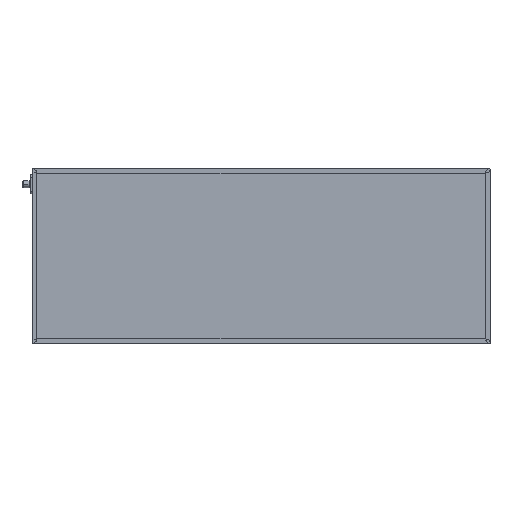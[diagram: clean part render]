
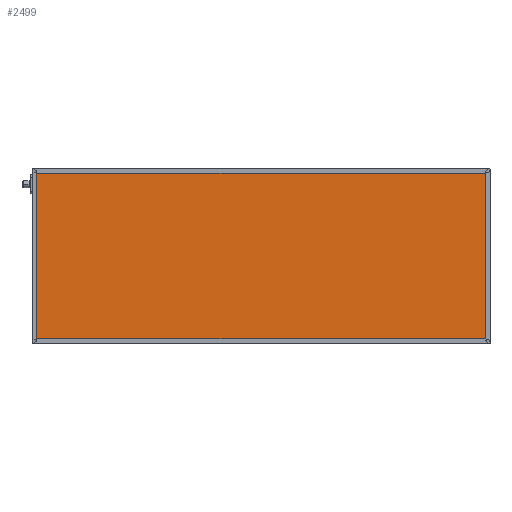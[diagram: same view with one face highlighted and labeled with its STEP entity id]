
A CAD part, top view. The second image highlights one B-rep face of the part: STEP entity #2499.
In plain terms, the highlighted planar face has unit normal (0, 0, 1).
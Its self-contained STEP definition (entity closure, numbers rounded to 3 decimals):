
#205 = EDGE_CURVE ( 'NONE', #12950, #5112, #7397, .T. ) ;
#1191 = VECTOR ( 'NONE', #16463, 1000. ) ;
#1362 = VERTEX_POINT ( 'NONE', #11998 ) ;
#1639 = LINE ( 'NONE', #16273, #14936 ) ;
#1656 = EDGE_CURVE ( 'NONE', #15715, #12950, #8681, .T. ) ;
#1838 = DIRECTION ( 'NONE',  ( -1., 0., 0. ) ) ;
#2499 = ADVANCED_FACE ( 'NONE', ( #10789 ), #13493, .F. ) ;
#3297 = DIRECTION ( 'NONE',  ( 0., -1., 0. ) ) ;
#3400 = EDGE_LOOP ( 'NONE', ( #7429, #8547, #9199, #16414 ) ) ;
#3859 = CARTESIAN_POINT ( 'NONE',  ( 796., 296., 41.85 ) ) ;
#4842 = LINE ( 'NONE', #16954, #9215 ) ;
#5112 = VERTEX_POINT ( 'NONE', #3859 ) ;
#6890 = EDGE_CURVE ( 'NONE', #1362, #15715, #1639, .T. ) ;
#7397 = LINE ( 'NONE', #14023, #1191 ) ;
#7429 = ORIENTED_EDGE ( 'NONE', *, *, #205, .T. ) ;
#8547 = ORIENTED_EDGE ( 'NONE', *, *, #15495, .T. ) ;
#8681 = LINE ( 'NONE', #14171, #14009 ) ;
#9199 = ORIENTED_EDGE ( 'NONE', *, *, #6890, .T. ) ;
#9215 = VECTOR ( 'NONE', #1838, 1000. ) ;
#9799 = CARTESIAN_POINT ( 'NONE',  ( 4., 4., 41.85 ) ) ;
#10496 = DIRECTION ( 'NONE',  ( 1., 0., 0. ) ) ;
#10789 = FACE_OUTER_BOUND ( 'NONE', #3400, .T. ) ;
#10952 = AXIS2_PLACEMENT_3D ( 'NONE', #13577, #11931, #13407 ) ;
#11931 = DIRECTION ( 'NONE',  ( 0., 0., -1. ) ) ;
#11998 = CARTESIAN_POINT ( 'NONE',  ( 4., 296., 41.85 ) ) ;
#12950 = VERTEX_POINT ( 'NONE', #16858 ) ;
#13407 = DIRECTION ( 'NONE',  ( -1., 0., 0. ) ) ;
#13493 = PLANE ( 'NONE',  #10952 ) ;
#13577 = CARTESIAN_POINT ( 'NONE',  ( 0., 0., 41.85 ) ) ;
#14009 = VECTOR ( 'NONE', #10496, 1000. ) ;
#14023 = CARTESIAN_POINT ( 'NONE',  ( 796., 0., 41.85 ) ) ;
#14171 = CARTESIAN_POINT ( 'NONE',  ( 0., 4., 41.85 ) ) ;
#14936 = VECTOR ( 'NONE', #3297, 1000. ) ;
#15495 = EDGE_CURVE ( 'NONE', #5112, #1362, #4842, .T. ) ;
#15715 = VERTEX_POINT ( 'NONE', #9799 ) ;
#16273 = CARTESIAN_POINT ( 'NONE',  ( 4., 0., 41.85 ) ) ;
#16414 = ORIENTED_EDGE ( 'NONE', *, *, #1656, .T. ) ;
#16463 = DIRECTION ( 'NONE',  ( 0., 1., 0. ) ) ;
#16858 = CARTESIAN_POINT ( 'NONE',  ( 796., 4., 41.85 ) ) ;
#16954 = CARTESIAN_POINT ( 'NONE',  ( 0., 296., 41.85 ) ) ;
